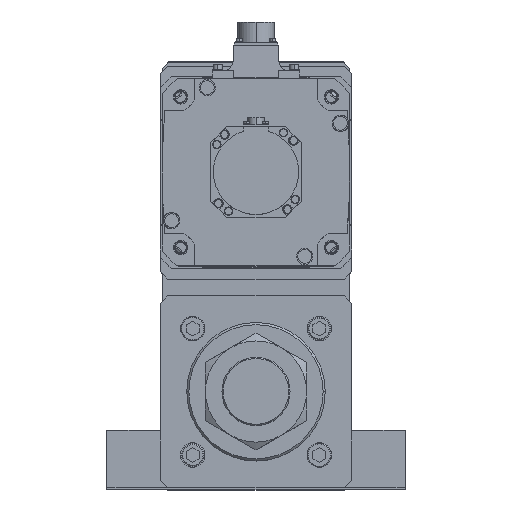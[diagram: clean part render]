
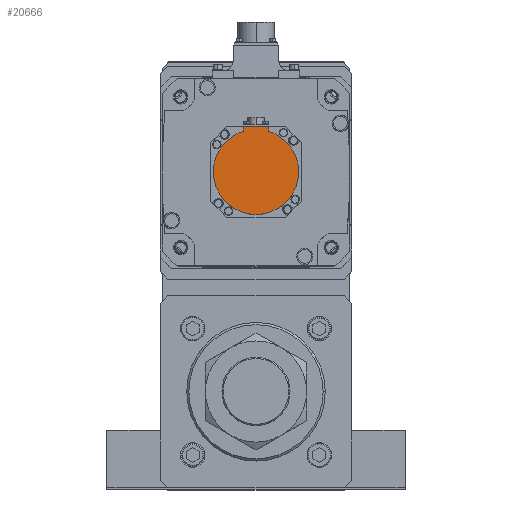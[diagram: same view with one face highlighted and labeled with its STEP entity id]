
A CAD part, top view. The second image highlights one B-rep face of the part: STEP entity #20666.
In plain terms, the highlighted planar face has unit normal (0, 0, 1) as drawn and (0, 0, -1) by its records, which use the part's own axes.
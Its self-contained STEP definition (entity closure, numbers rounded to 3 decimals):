
#2518 = CARTESIAN_POINT ( 'NONE',  ( 12., -42.5, -178.5 ) ) ;
#2821 = DIRECTION ( 'NONE',  ( 0., 0., 1. ) ) ;
#3612 = EDGE_LOOP ( 'NONE', ( #7328, #30632, #18711, #32803, #38144, #39659 ) ) ;
#4160 = VERTEX_POINT ( 'NONE', #29759 ) ;
#5640 = CARTESIAN_POINT ( 'NONE',  ( -12., -38.158, -178.5 ) ) ;
#6964 = CARTESIAN_POINT ( 'NONE',  ( 0., 0., -178.5 ) ) ;
#7328 = ORIENTED_EDGE ( 'NONE', *, *, #33095, .T. ) ;
#7711 = AXIS2_PLACEMENT_3D ( 'NONE', #6964, #2821, #43854 ) ;
#8380 = DIRECTION ( 'NONE',  ( 0., 0., 1. ) ) ;
#11432 = EDGE_CURVE ( 'NONE', #37081, #45386, #28100, .T. ) ;
#12335 = CARTESIAN_POINT ( 'NONE',  ( -12., -40.329, -178.5 ) ) ;
#12393 = CARTESIAN_POINT ( 'NONE',  ( 40., 0., -178.5 ) ) ;
#13943 = EDGE_CURVE ( 'NONE', #26541, #4160, #19510, .T. ) ;
#14744 = LINE ( 'NONE', #15016, #26934 ) ;
#14892 = FACE_OUTER_BOUND ( 'NONE', #3612, .T. ) ;
#15016 = CARTESIAN_POINT ( 'NONE',  ( 0., -42.5, -178.5 ) ) ;
#15986 = CIRCLE ( 'NONE', #48875, 40. ) ;
#18711 = ORIENTED_EDGE ( 'NONE', *, *, #13943, .F. ) ;
#19253 = DIRECTION ( 'NONE',  ( 0., 0., 1. ) ) ;
#19510 = CIRCLE ( 'NONE', #28971, 40. ) ;
#20666 = ADVANCED_FACE ( 'NONE', ( #14892 ), #32686, .F. ) ;
#21499 = LINE ( 'NONE', #12335, #50370 ) ;
#22167 = CARTESIAN_POINT ( 'NONE',  ( 12., -38.158, -178.5 ) ) ;
#24305 = EDGE_CURVE ( 'NONE', #45386, #26541, #27792, .T. ) ;
#24683 = DIRECTION ( 'NONE',  ( 0., 1., 0. ) ) ;
#24807 = DIRECTION ( 'NONE',  ( 0., 1., 0. ) ) ;
#24989 = CARTESIAN_POINT ( 'NONE',  ( 0., -1.249, -178.5 ) ) ;
#26541 = VERTEX_POINT ( 'NONE', #12393 ) ;
#26934 = VECTOR ( 'NONE', #43681, 1000. ) ;
#27792 = CIRCLE ( 'NONE', #7711, 40. ) ;
#28100 = LINE ( 'NONE', #28924, #48638 ) ;
#28924 = CARTESIAN_POINT ( 'NONE',  ( 12., -1.249, -178.5 ) ) ;
#28971 = AXIS2_PLACEMENT_3D ( 'NONE', #48298, #19253, #41248 ) ;
#29614 = CARTESIAN_POINT ( 'NONE',  ( -12., -42.5, -178.5 ) ) ;
#29759 = CARTESIAN_POINT ( 'NONE',  ( -40., 0., -178.5 ) ) ;
#29773 = VERTEX_POINT ( 'NONE', #5640 ) ;
#30632 = ORIENTED_EDGE ( 'NONE', *, *, #46767, .F. ) ;
#32359 = DIRECTION ( 'NONE',  ( 0., 0., 1. ) ) ;
#32686 = PLANE ( 'NONE',  #35672 ) ;
#32803 = ORIENTED_EDGE ( 'NONE', *, *, #24305, .F. ) ;
#32866 = DIRECTION ( 'NONE',  ( 1., 0., 0. ) ) ;
#33095 = EDGE_CURVE ( 'NONE', #37589, #29773, #21499, .T. ) ;
#35672 = AXIS2_PLACEMENT_3D ( 'NONE', #24989, #8380, #32866 ) ;
#35956 = DIRECTION ( 'NONE',  ( 1., 0., 0. ) ) ;
#37081 = VERTEX_POINT ( 'NONE', #2518 ) ;
#37589 = VERTEX_POINT ( 'NONE', #29614 ) ;
#38144 = ORIENTED_EDGE ( 'NONE', *, *, #11432, .F. ) ;
#39659 = ORIENTED_EDGE ( 'NONE', *, *, #51721, .T. ) ;
#41248 = DIRECTION ( 'NONE',  ( 1., 0., 0. ) ) ;
#43681 = DIRECTION ( 'NONE',  ( -1., 0., 0. ) ) ;
#43854 = DIRECTION ( 'NONE',  ( 1., 0., 0. ) ) ;
#45386 = VERTEX_POINT ( 'NONE', #22167 ) ;
#46767 = EDGE_CURVE ( 'NONE', #4160, #29773, #15986, .T. ) ;
#48205 = CARTESIAN_POINT ( 'NONE',  ( 0., 0., -178.5 ) ) ;
#48298 = CARTESIAN_POINT ( 'NONE',  ( 0., 0., -178.5 ) ) ;
#48638 = VECTOR ( 'NONE', #24807, 1000. ) ;
#48875 = AXIS2_PLACEMENT_3D ( 'NONE', #48205, #32359, #35956 ) ;
#50370 = VECTOR ( 'NONE', #24683, 1000. ) ;
#51721 = EDGE_CURVE ( 'NONE', #37081, #37589, #14744, .T. ) ;
